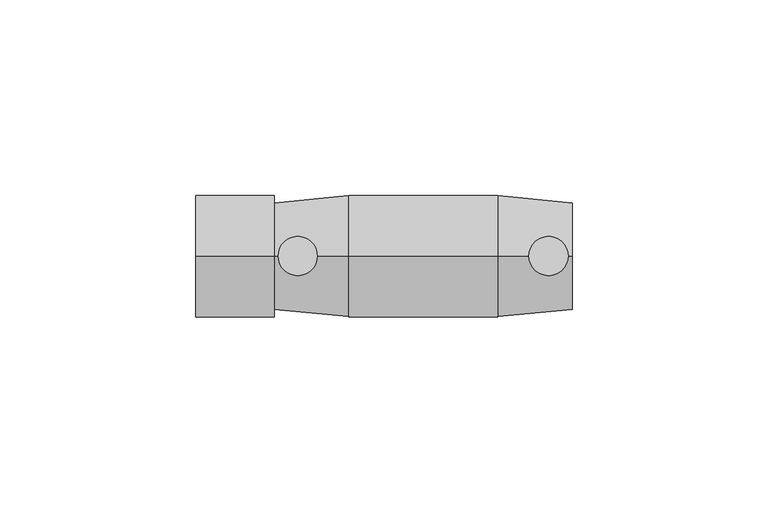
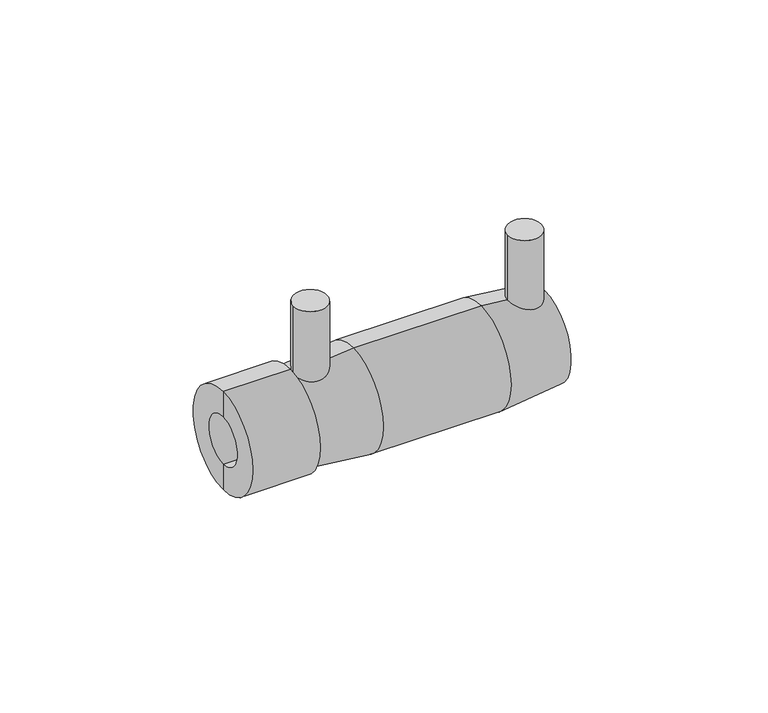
"""IFC4 building model written with IfcOpenShell, lengths in millimetres: pipe fitting geometry, Plumbing_Pipe-Fittings_Plasson_Female-Transition-Coupler_493104 : Plumbing_Pipe-Fittings_Plasson_Female-Transition-Coupler_493104."""

from ifc_helpers import new_model, si_unit, point, frame, frame_2d, origin, place, context, project, spatial, polyline, circle_curve, trimmed, segment, composite_curve, outline, extrude, source, transform, mapped, element, save
from ifc_brep_helpers import plane_surface, cylinder_surface, revolved_surface, advanced_brep


def pipe_fitting_1c2d9a35(model_context):
    return source(origin(), model_context, "Body", "SolidModel", [
        advanced_brep(
        [(-38.0, 0.0, -7.0), (-38.0, 0.0, 7.0), (-38.0, 0.0, 10.0), (-38.0, 0.0, -10.0), (-1.0, 0.0, -7.0), (-1.0, 0.0, 7.0), (-1.0, 0.0, -10.0), (-1.0, 0.0, 10.0)],
        [
            (0, 1, circle_curve(frame((-38.0, 0.0, 0.0), z_axis=(1.0, 0.0, 0.0), x_axis=(0.0, 0.0, 1.0)), 7.0)),
            (1, 2),
            (2, 3, circle_curve(frame((-38.0, 0.0, 0.0), z_axis=(-1.0, 0.0, 0.0), x_axis=(0.0, 0.0, 1.0)), 10.0)),
            (3, 0),
            (1, 0, circle_curve(frame((-38.0, 0.0, 0.0), z_axis=(1.0, 0.0, 0.0), x_axis=(0.0, 0.0, 1.0)), 7.0)),
            (3, 2, circle_curve(frame((-38.0, 0.0, 0.0), z_axis=(-1.0, 0.0, 0.0), x_axis=(0.0, 0.0, 1.0)), 10.0)),
            (4, 5, circle_curve(frame((-1.0, 0.0, 0.0), z_axis=(1.0, 0.0, 0.0), x_axis=(0.0, 0.0, 1.0)), 7.0)),
            (5, 1),
            (0, 4),
            (5, 4, circle_curve(frame((-1.0, 0.0, 0.0), z_axis=(1.0, 0.0, 0.0), x_axis=(0.0, 0.0, 1.0)), 7.0)),
            (6, 7, circle_curve(frame((-1.0, 0.0, 0.0), z_axis=(1.0, 0.0, 0.0), x_axis=(0.0, 0.0, 1.0)), 10.0)),
            (7, 5),
            (4, 6),
            (7, 6, circle_curve(frame((-1.0, 0.0, 0.0), z_axis=(1.0, 0.0, 0.0), x_axis=(0.0, 0.0, 1.0)), 10.0)),
            (2, 7),
            (6, 3),
        ],
        [
            plane_surface(frame((-38.0, 0.0, 0.0), z_axis=(-1.0, 0.0, 0.0), x_axis=(0.0, 0.0, 1.0))),
            revolved_surface(polyline([(-38.0, 0.0, 7.0), (-1.0, 0.0, 7.0)]), (-38.0, 0.0, 0.0), (-1.0, 0.0, 0.0)),
            plane_surface(frame((-1.0, 0.0, 0.0), z_axis=(1.0, 0.0, 0.0), x_axis=(0.0, 0.0, 1.0))),
            cylinder_surface(frame((-38.0, 0.0, 0.0), z_axis=(-1.0, 0.0, 0.0), x_axis=(0.0, 0.0, 1.0)), 10.0),
        ],
        [
            (0, [[1, 2, 3, 4]]),
            (0, [[5, -4, 6, -2]]),
            (1, [[7, 8, -1, 9]]),
            (1, [[10, -9, -5, -8]]),
            (2, [[11, 12, -7, 13]]),
            (2, [[14, -13, -10, -12]]),
            (3, [[-3, 15, -11, 16]]),
            (3, [[-6, -16, -14, -15]]),
        ],
    ),
        advanced_brep(
        [(-38.0, 0.0, -6.25), (-38.0, 0.0, 6.25), (-44.6666667, 0.0, 6.25), (-44.6666667, 0.0, -6.25), (-38.0, 0.0, -15.5), (-38.0, 0.0, 15.5), (-58.0, 0.0, -15.5), (-58.0, 0.0, 15.5), (-58.0, 0.0, -7.5), (-58.0, 0.0, 7.5), (-44.6666667, 0.0, -7.5), (-44.6666667, 0.0, 7.5)],
        [
            (0, 1, circle_curve(frame((-38.0, 0.0, 0.0), z_axis=(1.0, 0.0, 0.0), x_axis=(0.0, 0.0, 1.0)), 6.25)),
            (1, 2),
            (2, 3, circle_curve(frame((-44.6666667, 0.0, 0.0), z_axis=(-1.0, 0.0, 0.0), x_axis=(0.0, 0.0, 1.0)), 6.25)),
            (3, 0),
            (1, 0, circle_curve(frame((-38.0, 0.0, 0.0), z_axis=(1.0, 0.0, 0.0), x_axis=(0.0, 0.0, 1.0)), 6.25)),
            (3, 2, circle_curve(frame((-44.6666667, 0.0, 0.0), z_axis=(-1.0, 0.0, 0.0), x_axis=(0.0, 0.0, 1.0)), 6.25)),
            (4, 5, circle_curve(frame((-38.0, 0.0, 0.0), z_axis=(1.0, 0.0, 0.0), x_axis=(0.0, 0.0, 1.0)), 15.5)),
            (5, 1),
            (0, 4),
            (5, 4, circle_curve(frame((-38.0, 0.0, 0.0), z_axis=(1.0, 0.0, 0.0), x_axis=(0.0, 0.0, 1.0)), 15.5)),
            (6, 7, circle_curve(frame((-58.0, 0.0, 0.0), z_axis=(1.0, 0.0, 0.0), x_axis=(0.0, 0.0, 1.0)), 15.5)),
            (7, 5),
            (4, 6),
            (7, 6, circle_curve(frame((-58.0, 0.0, 0.0), z_axis=(1.0, 0.0, 0.0), x_axis=(0.0, 0.0, 1.0)), 15.5)),
            (8, 9, circle_curve(frame((-58.0, 0.0, 0.0), z_axis=(1.0, 0.0, 0.0), x_axis=(0.0, 0.0, 1.0)), 7.5)),
            (9, 7),
            (6, 8),
            (9, 8, circle_curve(frame((-58.0, 0.0, 0.0), z_axis=(1.0, 0.0, 0.0), x_axis=(0.0, 0.0, 1.0)), 7.5)),
            (10, 11, circle_curve(frame((-44.6666667, 0.0, 0.0), z_axis=(1.0, 0.0, 0.0), x_axis=(0.0, 0.0, 1.0)), 7.5)),
            (11, 9),
            (8, 10),
            (11, 10, circle_curve(frame((-44.6666667, 0.0, 0.0), z_axis=(1.0, 0.0, 0.0), x_axis=(0.0, 0.0, 1.0)), 7.5)),
            (2, 11),
            (10, 3),
        ],
        [
            revolved_surface(polyline([(-44.6666667, 0.0, 6.25), (-38.0, 0.0, 6.25)]), (-44.6666667, 0.0, 0.0), (-1.0, 0.0, 0.0)),
            plane_surface(frame((-38.0, 0.0, 0.0), z_axis=(1.0, 0.0, 0.0), x_axis=(0.0, 0.0, 1.0))),
            cylinder_surface(frame((-44.6666667, 0.0, 0.0), z_axis=(-1.0, 0.0, 0.0), x_axis=(0.0, 0.0, 1.0)), 15.5),
            plane_surface(frame((-58.0, 0.0, 0.0), z_axis=(-1.0, 0.0, 0.0), x_axis=(0.0, 0.0, 1.0))),
            revolved_surface(polyline([(-58.0, 0.0, 7.5), (-44.6666667, 0.0, 7.5)]), (-44.6666667, 0.0, 0.0), (-1.0, 0.0, 0.0)),
            plane_surface(frame((-44.6666667, 0.0, 0.0), z_axis=(-1.0, 0.0, 0.0), x_axis=(0.0, 0.0, 1.0))),
        ],
        [
            (0, [[1, 2, 3, 4]]),
            (0, [[5, -4, 6, -2]]),
            (1, [[7, 8, -1, 9]]),
            (1, [[10, -9, -5, -8]]),
            (2, [[11, 12, -7, 13]]),
            (2, [[14, -13, -10, -12]]),
            (3, [[15, 16, -11, 17]]),
            (3, [[18, -17, -14, -16]]),
            (4, [[19, 20, -15, 21]]),
            (4, [[22, -21, -18, -20]]),
            (5, [[-3, 23, -19, 24]]),
            (5, [[-6, -24, -22, -23]]),
        ],
    ),
        extrude(outline(composite_curve([segment(trimmed(circle_curve(frame_2d((-32.0, 0.0)), 5.0), [point((-37.0, 0.0))], [point((-27.0, 0.0))], False, "CARTESIAN"), True, "CONTINUOUS"), segment(trimmed(circle_curve(frame_2d((-32.0, 0.0)), 5.0), [point((-27.0, 0.0))], [point((-37.0, 0.0))], False, "CARTESIAN"), True, "CONTINUOUS")], self_intersect=False)), frame((0.0, 0.0, 12.75), z_axis=(0.0, 0.0, 1.0), x_axis=(1.0, 0.0, 0.0)), (0.0, 0.0, 1.0), 22.25),
        extrude(outline(composite_curve([segment(trimmed(circle_curve(frame_2d((32.0, 0.0)), 5.0), [point((27.0, 0.0))], [point((37.0, 0.0))], False, "CARTESIAN"), True, "CONTINUOUS"), segment(trimmed(circle_curve(frame_2d((32.0, 0.0)), 5.0), [point((37.0, 0.0))], [point((27.0, 0.0))], False, "CARTESIAN"), True, "CONTINUOUS")], self_intersect=False)), frame((0.0, 0.0, 12.75), z_axis=(0.0, 0.0, 1.0), x_axis=(1.0, 0.0, 0.0)), (0.0, 0.0, 1.0), 22.25),
        advanced_brep(
        [(-1.0, 0.0, -10.0), (-1.0, 0.0, 10.0), (-38.0, 0.0, 10.0), (-38.0, 0.0, -10.0), (38.0, 0.0, -13.6666667), (38.0, 0.0, 13.6666667), (38.0, 0.0, 10.0), (38.0, 0.0, -10.0), (-19.0, 0.0, -15.5), (-19.0, 0.0, 15.5), (19.0, 0.0, 15.5), (19.0, 0.0, -15.5), (-38.0, 0.0, 13.6666667), (-38.0, 0.0, -13.6666667), (-1.0, 0.0, -7.0), (-1.0, 0.0, 7.0), (1.0, 0.0, -7.0), (1.0, 0.0, 7.0), (1.0, 0.0, -10.0), (1.0, 0.0, 10.0)],
        [
            (0, 1, circle_curve(frame((-1.0, 0.0, 0.0), z_axis=(1.0, 0.0, 0.0), x_axis=(0.0, 0.0, 1.0)), 10.0)),
            (1, 2),
            (2, 3, circle_curve(frame((-38.0, 0.0, 0.0), z_axis=(-1.0, 0.0, 0.0), x_axis=(0.0, 0.0, 1.0)), 10.0)),
            (3, 0),
            (1, 0, circle_curve(frame((-1.0, 0.0, 0.0), z_axis=(1.0, 0.0, 0.0), x_axis=(0.0, 0.0, 1.0)), 10.0)),
            (3, 2, circle_curve(frame((-38.0, 0.0, 0.0), z_axis=(-1.0, 0.0, 0.0), x_axis=(0.0, 0.0, 1.0)), 10.0)),
            (4, 5, circle_curve(frame((38.0, 0.0, 0.0), z_axis=(1.0, 0.0, 0.0), x_axis=(0.0, 0.0, 1.0)), 13.6666667)),
            (5, 6),
            (6, 7, circle_curve(frame((38.0, 0.0, 0.0), z_axis=(-1.0, 0.0, 0.0), x_axis=(0.0, 0.0, 1.0)), 10.0)),
            (7, 4),
            (5, 4, circle_curve(frame((38.0, 0.0, 0.0), z_axis=(1.0, 0.0, 0.0), x_axis=(0.0, 0.0, 1.0)), 13.6666667)),
            (7, 6, circle_curve(frame((38.0, 0.0, 0.0), z_axis=(-1.0, 0.0, 0.0), x_axis=(0.0, 0.0, 1.0)), 10.0)),
            (8, 9, circle_curve(frame((-19.0, 0.0, 0.0), z_axis=(1.0, 0.0, 0.0), x_axis=(0.0, 0.0, 1.0)), 15.5)),
            (9, 10),
            (10, 11, circle_curve(frame((19.0, 0.0, 0.0), z_axis=(-1.0, 0.0, 0.0), x_axis=(0.0, 0.0, 1.0)), 15.5)),
            (11, 8),
            (9, 8, circle_curve(frame((-19.0, 0.0, 0.0), z_axis=(1.0, 0.0, 0.0), x_axis=(0.0, 0.0, 1.0)), 15.5)),
            (11, 10, circle_curve(frame((19.0, 0.0, 0.0), z_axis=(-1.0, 0.0, 0.0), x_axis=(0.0, 0.0, 1.0)), 15.5)),
            (2, 12),
            (12, 13, circle_curve(frame((-38.0, 0.0, 0.0), z_axis=(-1.0, 0.0, 0.0), x_axis=(0.0, 0.0, 1.0)), 13.6666667)),
            (13, 3),
            (13, 12, circle_curve(frame((-38.0, 0.0, 0.0), z_axis=(-1.0, 0.0, 0.0), x_axis=(0.0, 0.0, 1.0)), 13.6666667)),
            (10, 5),
            (4, 11),
            (12, 9),
            (8, 13),
            (14, 15, circle_curve(frame((-1.0, 0.0, 0.0), z_axis=(1.0, 0.0, 0.0), x_axis=(0.0, 0.0, 1.0)), 7.0)),
            (15, 1),
            (0, 14),
            (15, 14, circle_curve(frame((-1.0, 0.0, 0.0), z_axis=(1.0, 0.0, 0.0), x_axis=(0.0, 0.0, 1.0)), 7.0)),
            (16, 17, circle_curve(frame((1.0, 0.0, 0.0), z_axis=(1.0, 0.0, 0.0), x_axis=(0.0, 0.0, 1.0)), 7.0)),
            (17, 15),
            (14, 16),
            (17, 16, circle_curve(frame((1.0, 0.0, 0.0), z_axis=(1.0, 0.0, 0.0), x_axis=(0.0, 0.0, 1.0)), 7.0)),
            (18, 19, circle_curve(frame((1.0, 0.0, 0.0), z_axis=(1.0, 0.0, 0.0), x_axis=(0.0, 0.0, 1.0)), 10.0)),
            (19, 17),
            (16, 18),
            (19, 18, circle_curve(frame((1.0, 0.0, 0.0), z_axis=(1.0, 0.0, 0.0), x_axis=(0.0, 0.0, 1.0)), 10.0)),
            (6, 19),
            (18, 7),
        ],
        [
            revolved_surface(polyline([(-38.0, 0.0, 10.0), (-1.0, 0.0, 10.0)]), (-38.0, 0.0, 0.0), (-1.0, 0.0, 0.0)),
            plane_surface(frame((38.0, 0.0, 0.0), z_axis=(1.0, 0.0, 0.0), x_axis=(0.0, 0.0, 1.0))),
            cylinder_surface(frame((-38.0, 0.0, 0.0), z_axis=(-1.0, 0.0, 0.0), x_axis=(0.0, 0.0, 1.0)), 15.5),
            plane_surface(frame((-38.0, 0.0, 0.0), z_axis=(-1.0, 0.0, 0.0), x_axis=(0.0, 0.0, 1.0))),
            revolved_surface(polyline([(38.0, 0.0, 13.6666667), (19.0, 0.0, 15.5)]), (-38.0, 0.0, 0.0), (-1.0, 0.0, 0.0)),
            revolved_surface(polyline([(-19.0, 0.0, 15.5), (-38.0, 0.0, 13.6666667)]), (-38.0, 0.0, 0.0), (-1.0, 0.0, 0.0)),
            plane_surface(frame((-1.0, 0.0, 0.0), z_axis=(-1.0, 0.0, 0.0), x_axis=(0.0, 0.0, 1.0))),
            revolved_surface(polyline([(-1.0, 0.0, 7.0), (1.0, 0.0, 7.0)]), (-38.0, 0.0, 0.0), (-1.0, 0.0, 0.0)),
            plane_surface(frame((1.0, 0.0, 0.0), z_axis=(1.0, 0.0, 0.0), x_axis=(0.0, 0.0, 1.0))),
            revolved_surface(polyline([(1.0, 0.0, 10.0), (38.0, 0.0, 10.0)]), (-38.0, 0.0, 0.0), (-1.0, 0.0, 0.0)),
        ],
        [
            (0, [[1, 2, 3, 4]]),
            (0, [[5, -4, 6, -2]]),
            (1, [[7, 8, 9, 10]]),
            (1, [[11, -10, 12, -8]]),
            (2, [[13, 14, 15, 16]]),
            (2, [[17, -16, 18, -14]]),
            (3, [[-3, 19, 20, 21]]),
            (3, [[-6, -21, 22, -19]]),
            (4, [[-15, 23, -7, 24]]),
            (4, [[-18, -24, -11, -23]]),
            (5, [[-20, 25, -13, 26]]),
            (5, [[-22, -26, -17, -25]]),
            (6, [[27, 28, -1, 29]]),
            (6, [[30, -29, -5, -28]]),
            (7, [[31, 32, -27, 33]]),
            (7, [[34, -33, -30, -32]]),
            (8, [[35, 36, -31, 37]]),
            (8, [[38, -37, -34, -36]]),
            (9, [[-9, 39, -35, 40]]),
            (9, [[-12, -40, -38, -39]]),
        ],
    ),
    ])


if __name__ == "__main__":
    model = new_model("IFC4")
    model_context = context("Model", 3, world=origin())
    ifc_project = project(units=[si_unit("LENGTHUNIT", "METRE", prefix="MILLI")], contexts=[model_context])
    site = spatial("IfcSite", under=ifc_project)
    building = spatial("IfcBuilding", under=site)
    placement = place(None, origin())
    pipe_fitting_shape = pipe_fitting_1c2d9a35(model_context)
    element("IfcPipeFitting", 1, ObjectType="Plumbing_Pipe-Fittings_Plasson_Female-Transition-Coupler_493104 : Plumbing_Pipe-Fittings_Plasson_Female-Transition-Coupler_493104", at=placement, inside=building, context=model_context, shape_type="MappedRepresentation", body=[
        mapped(pipe_fitting_shape, transform((0.0, 0.0, 0.0), x_axis=(1.0, 0.0, 0.0), y_axis=(0.0, 1.0, 0.0), z_axis=(0.0, 0.0, 1.0))),
    ])
    save(model, "model.ifc")
